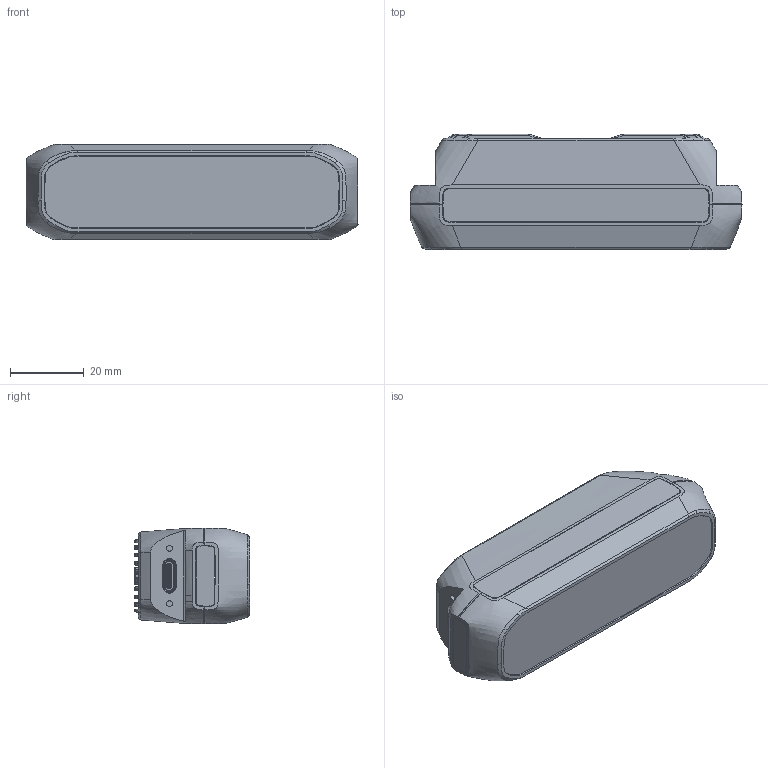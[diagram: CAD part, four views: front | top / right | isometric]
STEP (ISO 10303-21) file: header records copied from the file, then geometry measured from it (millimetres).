
FILE_DESCRIPTION((''),'2;1');
FILE_NAME('00-ALL-DB02SUN_SW0001','2024-12-27T15:42:31',('guotianbo'),(''),'CREO PARAMETRIC BY PTC INC, 2020044','CREO PARAMETRIC BY PTC INC, 2020044','');
FILE_SCHEMA(('AUTOMOTIVE_DESIGN { 1 0 10303 214 1 1 1 1 }'));
Products named in the file (1): 00-ALL-DB02SUN_SW0001
Bounding box: 89.96 x 31.2 x 26.01 mm (x, y, z)
Surface area: 12270.3 mm2 (no closed solid volume)
Topology: 0 solids, 24 shells, 970 faces, 2926 edges, 1938 vertices
Faces by surface type: plane 409, cylinder 271, bspline 161, torus 45, cone 44, extrusion 22, sphere 18
Entity records: 46204 total; most frequent: CARTESIAN_POINT 21822, ORIENTED_EDGE 5074, DIRECTION 4304, EDGE_CURVE 2918, VERTEX_POINT 1930, VECTOR 1712, LINE 1690, AXIS2_PLACEMENT_3D 1296
